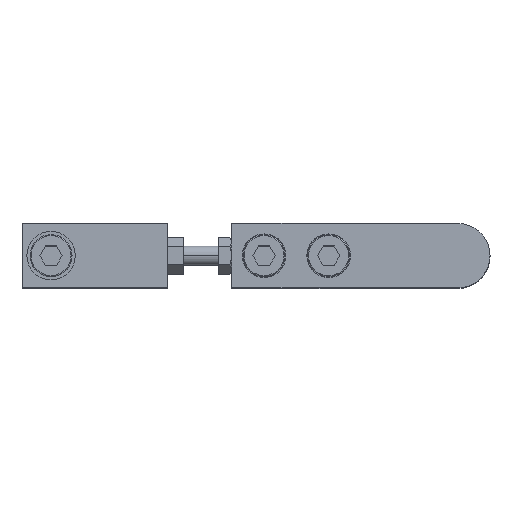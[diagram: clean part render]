
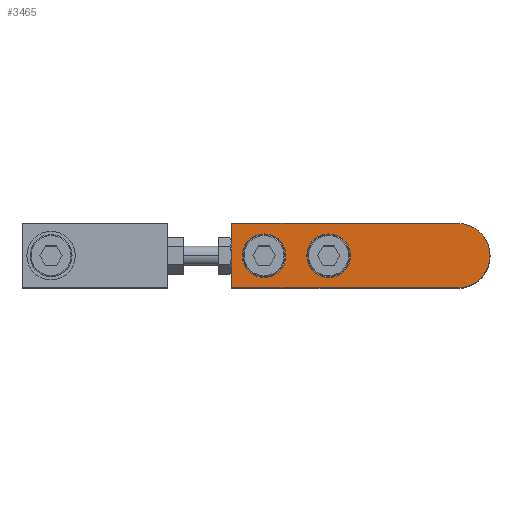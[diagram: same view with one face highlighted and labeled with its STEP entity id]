
A CAD part, top view. The second image highlights one B-rep face of the part: STEP entity #3465.
In plain terms, the highlighted planar face has unit normal (0, 0, 1) as drawn and (0, 0, -1) by its records, which use the part's own axes.
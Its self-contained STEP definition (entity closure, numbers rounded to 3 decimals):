
#30 = ORIENTED_EDGE ( 'NONE', *, *, #2881, .F. ) ;
#93 = EDGE_LOOP ( 'NONE', ( #30, #2882, #3360, #2232, #3308 ) ) ;
#110 = DIRECTION ( 'NONE',  ( 1., 0., 0. ) ) ;
#113 = VECTOR ( 'NONE', #6899, 1000. ) ;
#171 = AXIS2_PLACEMENT_3D ( 'NONE', #4886, #3694, #2435 ) ;
#430 = CARTESIAN_POINT ( 'NONE',  ( 40., 0., -5. ) ) ;
#446 = ORIENTED_EDGE ( 'NONE', *, *, #5320, .F. ) ;
#528 = CARTESIAN_POINT ( 'NONE',  ( 66.75, 0., -5. ) ) ;
#584 = FACE_BOUND ( 'NONE', #7208, .T. ) ;
#874 = VERTEX_POINT ( 'NONE', #528 ) ;
#888 = EDGE_CURVE ( 'NONE', #6320, #961, #5074, .T. ) ;
#950 = CARTESIAN_POINT ( 'NONE',  ( -10., 0., -5. ) ) ;
#961 = VERTEX_POINT ( 'NONE', #5662 ) ;
#1155 = DIRECTION ( 'NONE',  ( 1., 0., 0. ) ) ;
#1177 = ORIENTED_EDGE ( 'NONE', *, *, #1924, .F. ) ;
#1317 = VERTEX_POINT ( 'NONE', #5487 ) ;
#1650 = VECTOR ( 'NONE', #6447, 1000. ) ;
#1755 = LINE ( 'NONE', #5720, #113 ) ;
#1906 = CARTESIAN_POINT ( 'NONE',  ( 0., 0., -5. ) ) ;
#1924 = EDGE_CURVE ( 'NONE', #6364, #874, #6794, .T. ) ;
#2012 = DIRECTION ( 'NONE',  ( -1., 0., 0. ) ) ;
#2032 = PLANE ( 'NONE',  #5587 ) ;
#2232 = ORIENTED_EDGE ( 'NONE', *, *, #6849, .F. ) ;
#2239 = CARTESIAN_POINT ( 'NONE',  ( 33.25, 0., -5. ) ) ;
#2435 = DIRECTION ( 'NONE',  ( -1., 0., 0. ) ) ;
#2504 = DIRECTION ( 'NONE',  ( 0., 0., -1. ) ) ;
#2881 = EDGE_CURVE ( 'NONE', #1317, #6320, #7121, .T. ) ;
#2882 = ORIENTED_EDGE ( 'NONE', *, *, #3239, .F. ) ;
#2990 = CARTESIAN_POINT ( 'NONE',  ( 70., 10., -5. ) ) ;
#3145 = DIRECTION ( 'NONE',  ( -1., 0., 0. ) ) ;
#3239 = EDGE_CURVE ( 'NONE', #6801, #1317, #3555, .T. ) ;
#3277 = ORIENTED_EDGE ( 'NONE', *, *, #7242, .F. ) ;
#3308 = ORIENTED_EDGE ( 'NONE', *, *, #888, .F. ) ;
#3360 = ORIENTED_EDGE ( 'NONE', *, *, #5726, .F. ) ;
#3417 = LINE ( 'NONE', #5859, #1650 ) ;
#3465 = ADVANCED_FACE ( 'NONE', ( #7384, #584, #5828 ), #2032, .F. ) ;
#3505 = VERTEX_POINT ( 'NONE', #4259 ) ;
#3555 = LINE ( 'NONE', #4959, #4403 ) ;
#3694 = DIRECTION ( 'NONE',  ( 0., 0., -1. ) ) ;
#4097 = VERTEX_POINT ( 'NONE', #2239 ) ;
#4259 = CARTESIAN_POINT ( 'NONE',  ( 46.75, 0., -5. ) ) ;
#4352 = EDGE_LOOP ( 'NONE', ( #1177, #446 ) ) ;
#4367 = CARTESIAN_POINT ( 'NONE',  ( 70., -10., -5. ) ) ;
#4403 = VECTOR ( 'NONE', #2012, 1000. ) ;
#4469 = CIRCLE ( 'NONE', #7294, 6.75 ) ;
#4507 = DIRECTION ( 'NONE',  ( -1., 0., 0. ) ) ;
#4576 = DIRECTION ( 'NONE',  ( 0., 0., -1. ) ) ;
#4804 = ORIENTED_EDGE ( 'NONE', *, *, #5971, .F. ) ;
#4876 = CARTESIAN_POINT ( 'NONE',  ( 40., 0., -5. ) ) ;
#4886 = CARTESIAN_POINT ( 'NONE',  ( 60., 0., -5. ) ) ;
#4959 = CARTESIAN_POINT ( 'NONE',  ( 0., 10., -5. ) ) ;
#5067 = CARTESIAN_POINT ( 'NONE',  ( 0., 0., -5. ) ) ;
#5074 = CIRCLE ( 'NONE', #6112, 10. ) ;
#5233 = AXIS2_PLACEMENT_3D ( 'NONE', #430, #4576, #4507 ) ;
#5320 = EDGE_CURVE ( 'NONE', #874, #6364, #6109, .T. ) ;
#5426 = DIRECTION ( 'NONE',  ( -1., 0., 0. ) ) ;
#5434 = AXIS2_PLACEMENT_3D ( 'NONE', #1906, #5999, #110 ) ;
#5487 = CARTESIAN_POINT ( 'NONE',  ( 0., 10., -5. ) ) ;
#5587 = AXIS2_PLACEMENT_3D ( 'NONE', #5067, #6206, #5639 ) ;
#5639 = DIRECTION ( 'NONE',  ( 1., 0., 0. ) ) ;
#5662 = CARTESIAN_POINT ( 'NONE',  ( 0., -10., -5. ) ) ;
#5720 = CARTESIAN_POINT ( 'NONE',  ( 70., 10., -5. ) ) ;
#5726 = EDGE_CURVE ( 'NONE', #7102, #6801, #1755, .T. ) ;
#5828 = FACE_OUTER_BOUND ( 'NONE', #93, .T. ) ;
#5859 = CARTESIAN_POINT ( 'NONE',  ( 0., -10., -5. ) ) ;
#5971 = EDGE_CURVE ( 'NONE', #3505, #4097, #4469, .T. ) ;
#5999 = DIRECTION ( 'NONE',  ( 0., 0., 1. ) ) ;
#6109 = CIRCLE ( 'NONE', #171, 6.75 ) ;
#6112 = AXIS2_PLACEMENT_3D ( 'NONE', #6408, #6475, #1155 ) ;
#6130 = AXIS2_PLACEMENT_3D ( 'NONE', #7150, #6595, #5426 ) ;
#6206 = DIRECTION ( 'NONE',  ( 0., 0., 1. ) ) ;
#6320 = VERTEX_POINT ( 'NONE', #950 ) ;
#6364 = VERTEX_POINT ( 'NONE', #7381 ) ;
#6408 = CARTESIAN_POINT ( 'NONE',  ( 0., 0., -5. ) ) ;
#6447 = DIRECTION ( 'NONE',  ( 1., 0., 0. ) ) ;
#6475 = DIRECTION ( 'NONE',  ( 0., 0., 1. ) ) ;
#6595 = DIRECTION ( 'NONE',  ( 0., 0., -1. ) ) ;
#6794 = CIRCLE ( 'NONE', #6130, 6.75 ) ;
#6801 = VERTEX_POINT ( 'NONE', #2990 ) ;
#6849 = EDGE_CURVE ( 'NONE', #961, #7102, #3417, .T. ) ;
#6899 = DIRECTION ( 'NONE',  ( 0., 1., 0. ) ) ;
#7102 = VERTEX_POINT ( 'NONE', #4367 ) ;
#7121 = CIRCLE ( 'NONE', #5434, 10. ) ;
#7150 = CARTESIAN_POINT ( 'NONE',  ( 60., 0., -5. ) ) ;
#7208 = EDGE_LOOP ( 'NONE', ( #3277, #4804 ) ) ;
#7242 = EDGE_CURVE ( 'NONE', #4097, #3505, #7340, .T. ) ;
#7294 = AXIS2_PLACEMENT_3D ( 'NONE', #4876, #2504, #3145 ) ;
#7340 = CIRCLE ( 'NONE', #5233, 6.75 ) ;
#7381 = CARTESIAN_POINT ( 'NONE',  ( 53.25, 0., -5. ) ) ;
#7384 = FACE_BOUND ( 'NONE', #4352, .T. ) ;
